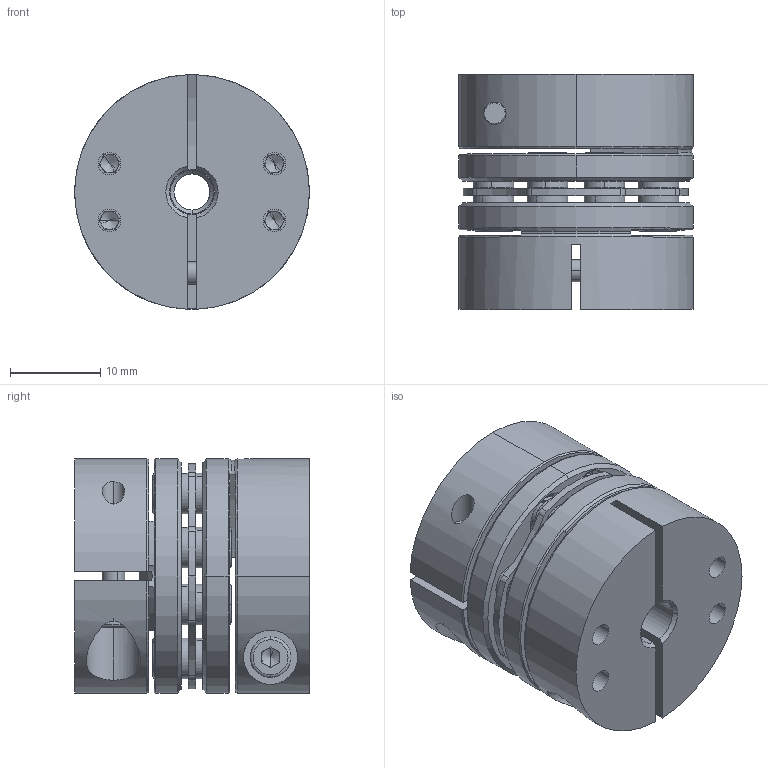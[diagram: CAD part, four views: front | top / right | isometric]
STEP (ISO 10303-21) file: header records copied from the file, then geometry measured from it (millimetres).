
FILE_DESCRIPTION (( 'STEP AP203' ), '1' );
FILE_NAME ('LDG-D26-4-5.STEP', '2021-10-28T03:19:27', ( '' ), ( '' ), 'SwSTEP 2.0', 'SolidWorks 2018', '' );
FILE_SCHEMA (( 'CONFIG_CONTROL_DESIGN' ));
Length unit declared in the file: millimetre
Products named in the file (2): 錨璃2^LDG-D26蚾饜芞1; LDG-D26-4-5
Assembly tree (1 placements, depth 2):
  LDG-D26-4-5
    錨璃2^LDG-D26蚾饜芞1
Bounding box: 26 x 26 x 26 mm (x, y, z)
Volume: 10847.8 mm3; surface area: 9177.9 mm2
Topology: 1 solids, 21 shells, 765 faces, 1872 edges, 1159 vertices
Faces by surface type: cylinder 301, plane 244, cone 200, torus 20
Entity records: 23061 total; most frequent: DIRECTION 4281, CARTESIAN_POINT 4168, ORIENTED_EDGE 3688, EDGE_CURVE 1844, AXIS2_PLACEMENT_3D 1740, VERTEX_POINT 1159, CIRCLE 971, EDGE_LOOP 909
